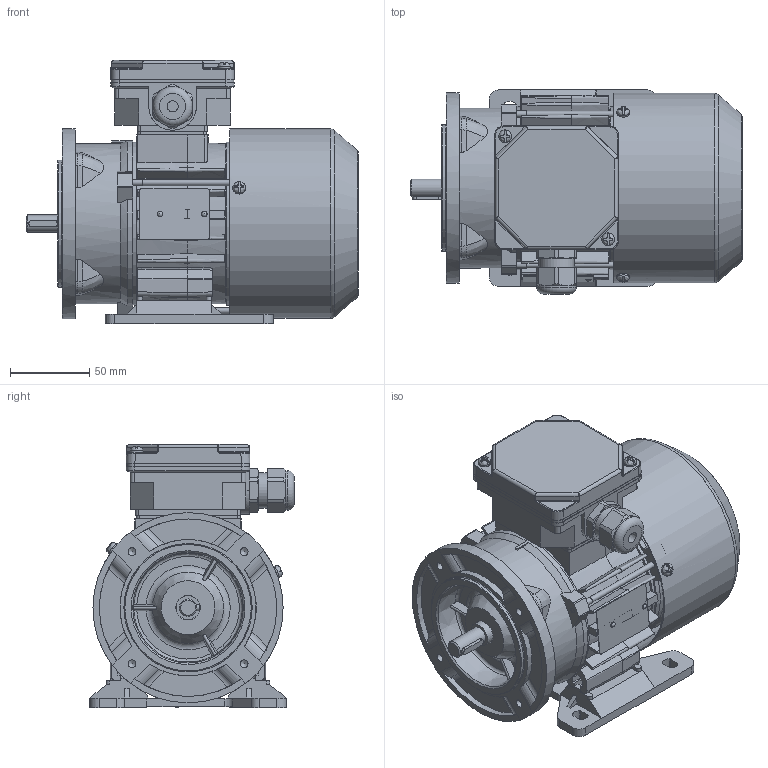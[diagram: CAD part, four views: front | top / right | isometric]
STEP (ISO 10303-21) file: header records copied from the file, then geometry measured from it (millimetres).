
FILE_DESCRIPTION( ( 'Unknown' ), '1' );
FILE_NAME( 'G:/Poczta Tk-1/STP/w.m.63/Sh63/SLh63-B1.stp', 'Unknown', ( 'K. Szlosek' ), ( 'BESEL S.A.' ), 'PSStep 17.0.49', 'Unknown', ' ' );
FILE_SCHEMA( ( 'AUTOMOTIVE_DESIGN { 1 0 10303 214 1 1 1 1 }' ) );
Length unit declared in the file: millimetre
Products named in the file (30): Assem1; K3-9973 Kadłub ze stojanem wykończonym Sh63-B; K3-5320 Tarcza łożyskowa P Sg63; Łożysko 6202; K3-9974 Wał Sh63-B; K2-1769 Przewietrznik Sg63; K3-5321 osłona przewietrznika Sg63; Wpust A4x4x18; Śruba ściągająca E_M4x80; K4-2320 Uszczelka nr 1 Sh71,80; K4-2820 Uszczelka nr 2 Sh71,80; K2-0859 Podstawa skrzynki 6-cio zaciskowej; K2-0860 Pokrywka skrzynki zaciskowej; Wkręt samogwintujący M4x8; Wkręt samogwintujący M4x16; Dławnica M20x1,5; Tabliczka znamionowa 32x44; Nitokołek A 2x6; K1-1111 Tarcza kołnierzowa w.m. 63 IMB14_1; K1-1107 Łapa Sg63-.. w. robocza
Assembly tree (46 placements, depth 2):
  Assem1
    K3-9973 Kadłub ze stojanem wykończonym Sh63-B
    K3-5320 Tarcza łożyskowa P Sg63
    Łożysko 6202  x2
    Łożysko 6202  x2
    Łożysko 6202  x2
    Łożysko 6202  x2
    Łożysko 6202  x2
    Łożysko 6202  x2
    Łożysko 6202  x2
    Łożysko 6202  x2
    Łożysko 6202  x2
    Łożysko 6202  x2
    Łożysko 6202  x2
    K3-9974 Wał Sh63-B
    K2-1769 Przewietrznik Sg63
    K3-5321 osłona przewietrznika Sg63
    Wpust A4x4x18
    Śruba ściągająca E_M4x80  x3
    K4-2320 Uszczelka nr 1 Sh71,80
    K4-2820 Uszczelka nr 2 Sh71,80
    K2-0859 Podstawa skrzynki 6-cio zaciskowej
    K2-0860 Pokrywka skrzynki zaciskowej
    Wkręt samogwintujący M4x8  x3
    Wkręt samogwintujący M4x16  x2
    Dławnica M20x1,5
    Tabliczka znamionowa 32x44
    Nitokołek A 2x6  x2
    K1-1111 Tarcza kołnierzowa w.m. 63 IMB14_1
    K1-1107 Łapa Sg63-.. w. robocza
Bounding box: 209.5 x 129 x 166 mm (x, y, z)
Volume: 573967.1 mm3; surface area: 372746 mm2
Topology: 46 solids, 64 shells, 2045 faces, 5631 edges, 3651 vertices
Faces by surface type: plane 1027, cylinder 602, cone 130, torus 126, bspline 121, sphere 39
Full cylindrical faces by diameter (mm): 2 x2, 2.4 x2, 3.3 x3, 3.7 x10, 4 x8, 4.5 x4, 4.8 x4, 5 x8, 5.8 x4, 7 x4, 8 x6, 11 x1, 12.9 x1, 13.1 x1, 13.5 x1, 15 x4, 15.4 x2, 18.376 x1, 18.38 x1, 19 x2, 19.5 x1, 20 x2, 20.1 x1, 21.52 x4, 22.3 x1, 25 x1, 28 x2, 28.48 x4, 31 x2, 32 x1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
Entity records: 89150 total; most frequent: CARTESIAN_POINT 27004, ORIENTED_EDGE 9796, DIRECTION 9372, EDGE_CURVE 4898, AXIS2_PLACEMENT_3D 3448, VERTEX_POINT 3321, LINE 2476, VECTOR 2476
